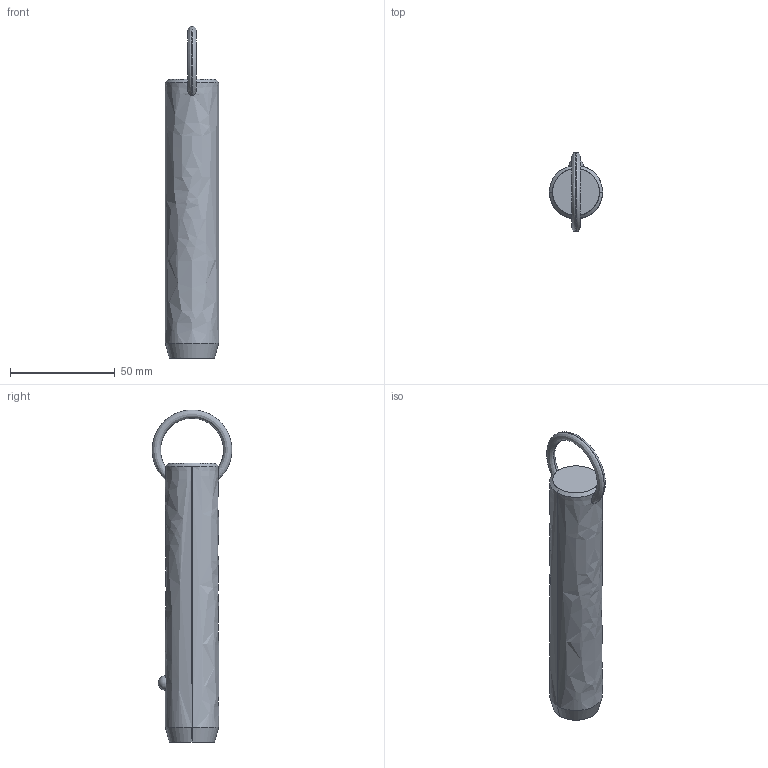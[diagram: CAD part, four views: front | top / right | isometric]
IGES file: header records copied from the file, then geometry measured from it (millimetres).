
Start section: SolidWorks IGES file using analytic representation for surfaces
Global section: file name: C:\Users\liam_\OneDrive\Documents\WORK\Work for WixRoyd\Job Files\J-00019 - Matt Davis CAD Checking\04. CAD Drawings\automotion20190605\P1250.2_v2\P1250.2_v2_20190729_IGES\P1250.100-350.igs; native system: SolidWorks 2017; preprocessor: SolidWorks 2017; author: liam_; date: 190730.173802; units: millimetre
Bounding box: 25.4 x 38.1 x 158.7 mm (x, y, z)
Surface area: 12410.2 mm2 (no closed solid volume)
Topology: 0 solids, 0 shells, 12 faces, 298 edges, 296 vertices
Faces by surface type: revolution 8, bspline 4
